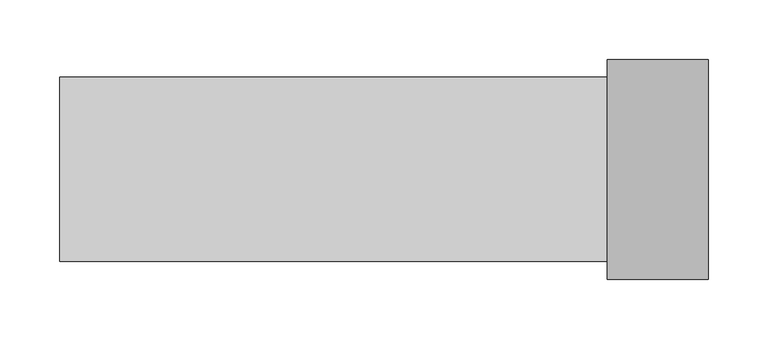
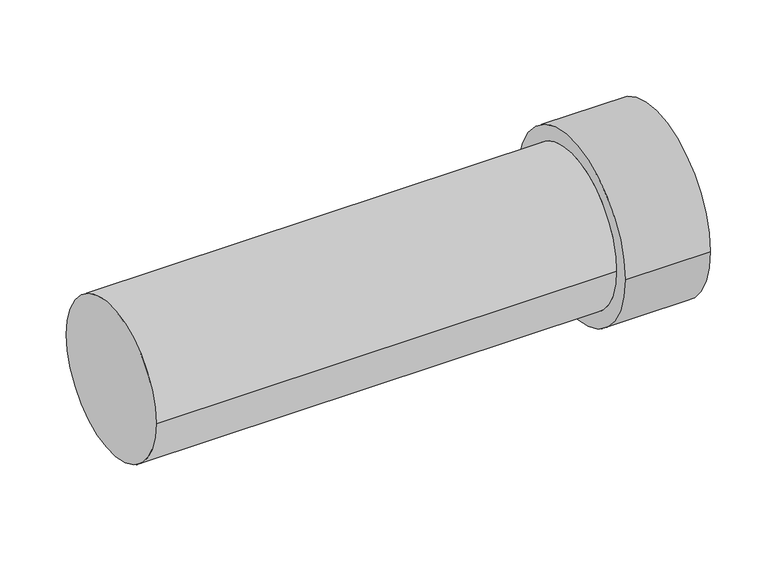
"""IFC4 building model written with IfcOpenShell, lengths in millimetres: duct segment geometry, NLRS_57_DUF_UN_duct EPP_M&G : ø125 - ø180."""

from ifc_helpers import new_model, si_unit, frame, origin, place, context, project, spatial, polyline, circle_curve, source, transform, mapped, element, save
from ifc_brep_helpers import plane_surface, cylinder_surface, revolved_surface, advanced_brep


def duct_segment_7f3dbc00(model_context):
    return source(origin(), model_context, "Body", "AdvancedBrep", [
        advanced_brep(
        [(505.0, -77.5, 0.0), (505.0, 77.5, 0.0), (0.0, 77.5, 0.0), (0.0, -77.5, 0.0), (460.0, -77.5, 0.0), (460.0, 77.5, 0.0), (460.0, -92.5, 0.0), (460.0, 92.5, 0.0), (545.0, -92.5, 0.0), (545.0, 92.5, 0.0), (545.0, -77.5, 0.0), (545.0, 77.5, 0.0)],
        [
            (0, 1, circle_curve(frame((505.0, 0.0, 0.0), z_axis=(1.0, 0.0, 0.0), x_axis=(0.0, 1.0, 0.0)), 77.5)),
            (1, 0, circle_curve(frame((505.0, 0.0, 0.0), z_axis=(1.0, 0.0, 0.0), x_axis=(0.0, 1.0, 0.0)), 77.5)),
            (2, 3, circle_curve(frame((0.0, 0.0, 0.0), z_axis=(-1.0, 0.0, 0.0), x_axis=(0.0, -1.0, 0.0)), 77.5)),
            (3, 2, circle_curve(frame((0.0, 0.0, 0.0), z_axis=(-1.0, 0.0, 0.0), x_axis=(0.0, -1.0, 0.0)), 77.5)),
            (3, 4),
            (4, 5, circle_curve(frame((460.0, 0.0, 0.0), z_axis=(-1.0, 0.0, 0.0), x_axis=(0.0, -1.0, 0.0)), 77.5)),
            (5, 2),
            (5, 4, circle_curve(frame((460.0, 0.0, 0.0), z_axis=(-1.0, 0.0, 0.0), x_axis=(0.0, -1.0, 0.0)), 77.5)),
            (6, 7, circle_curve(frame((460.0, 0.0, 0.0), z_axis=(-1.0, 0.0, 0.0), x_axis=(0.0, 1.0, 0.0)), 92.5)),
            (7, 6, circle_curve(frame((460.0, 0.0, 0.0), z_axis=(-1.0, 0.0, 0.0), x_axis=(0.0, 1.0, 0.0)), 92.5)),
            (8, 9, circle_curve(frame((545.0, 0.0, 0.0), z_axis=(1.0, 0.0, 0.0), x_axis=(0.0, 1.0, 0.0)), 92.5)),
            (9, 8, circle_curve(frame((545.0, 0.0, 0.0), z_axis=(1.0, 0.0, 0.0), x_axis=(0.0, 1.0, 0.0)), 92.5)),
            (10, 11, circle_curve(frame((545.0, 0.0, 0.0), z_axis=(-1.0, 0.0, 0.0), x_axis=(0.0, 1.0, 0.0)), 77.5)),
            (11, 10, circle_curve(frame((545.0, 0.0, 0.0), z_axis=(-1.0, 0.0, 0.0), x_axis=(0.0, 1.0, 0.0)), 77.5)),
            (11, 1),
            (0, 10),
            (6, 8),
            (9, 7),
        ],
        [
            plane_surface(frame((505.0, 0.0, 0.0), z_axis=(1.0, 0.0, 0.0), x_axis=(0.0, 0.0, 1.0))),
            plane_surface(frame((0.0, 0.0, 0.0), z_axis=(-1.0, 0.0, 0.0), x_axis=(0.0, 0.0, 1.0))),
            cylinder_surface(frame((505.0, 0.0, 0.0), z_axis=(1.0, 0.0, 0.0), x_axis=(0.0, -1.0, 0.0)), 77.5),
            plane_surface(frame((460.0, 0.0, 0.0), z_axis=(-1.0, 0.0, 0.0), x_axis=(0.0, 0.0, 1.0))),
            plane_surface(frame((545.0, 0.0, 0.0), z_axis=(1.0, 0.0, 0.0), x_axis=(0.0, 0.0, 1.0))),
            revolved_surface(polyline([(545.0, 77.5, 0.0), (505.0, 77.5, 0.0)]), (460.0, 0.0, 0.0), (1.0, 0.0, 0.0)),
            cylinder_surface(frame((460.0, 0.0, 0.0), z_axis=(-1.0, 0.0, 0.0), x_axis=(0.0, 1.0, 0.0)), 92.5),
        ],
        [
            (0, [[1, 2]]),
            (1, [[3, 4]]),
            (2, [[-4, 5, 6, 7]]),
            (2, [[-3, -7, 8, -5]]),
            (3, [[9, 10], [-6, -8]]),
            (4, [[11, 12], [13, 14]]),
            (5, [[-14, 15, -1, 16]]),
            (5, [[-13, -16, -2, -15]]),
            (6, [[-9, 17, -12, 18]]),
            (6, [[-10, -18, -11, -17]]),
        ],
    ),
    ])


if __name__ == "__main__":
    model = new_model("IFC4")
    model_context = context("Model", 3, world=origin())
    ifc_project = project(units=[si_unit("LENGTHUNIT", "METRE", prefix="MILLI")], contexts=[model_context])
    site = spatial("IfcSite", under=ifc_project)
    building = spatial("IfcBuilding", under=site)
    placement = place(None, origin())
    duct_segment_shape = duct_segment_7f3dbc00(model_context)
    element("IfcDuctSegment", 1, ObjectType="NLRS_57_DUF_UN_duct EPP_M&G : ø125 - ø180", at=placement, inside=building, context=model_context, shape_type="MappedRepresentation", body=[
        mapped(duct_segment_shape, transform((0.0, 0.0, 0.0), x_axis=(1.0, 0.0, 0.0), y_axis=(0.0, 1.0, 0.0), z_axis=(0.0, 0.0, 1.0))),
    ])
    save(model, "model.ifc")
